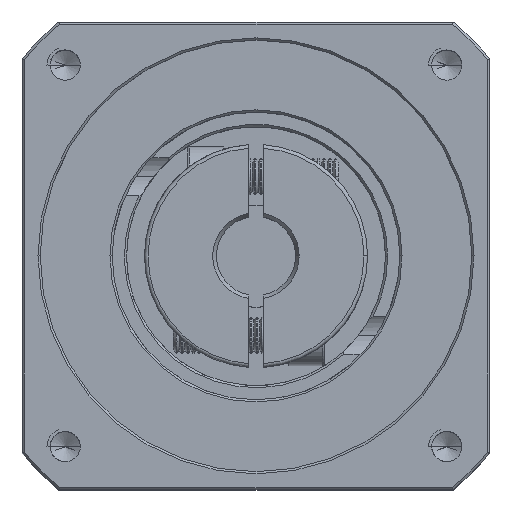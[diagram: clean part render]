
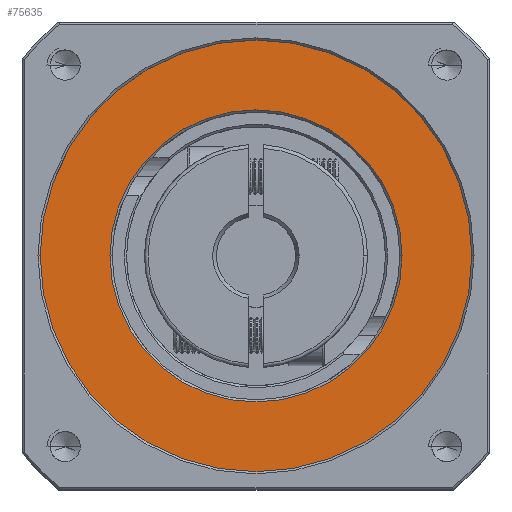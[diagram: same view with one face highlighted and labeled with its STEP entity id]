
A CAD part, top view. The second image highlights one B-rep face of the part: STEP entity #75635.
In plain terms, the highlighted planar face has unit normal (0, 0, 1).
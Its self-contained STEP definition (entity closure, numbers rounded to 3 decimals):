
#27 = DIRECTION ( 'NONE',  ( 0., 0., -1. ) ) ;
#2831 = FACE_BOUND ( 'NONE', #68690, .T. ) ;
#5422 = FACE_OUTER_BOUND ( 'NONE', #14036, .T. ) ;
#6773 = AXIS2_PLACEMENT_3D ( 'NONE', #59103, #9814, #67403 ) ;
#9814 = DIRECTION ( 'NONE',  ( 0., 0., 1. ) ) ;
#10426 = CIRCLE ( 'NONE', #76814, 30. ) ;
#13213 = CARTESIAN_POINT ( 'NONE',  ( -81.135, 18.488, 28.781 ) ) ;
#14036 = EDGE_LOOP ( 'NONE', ( #45661, #30604 ) ) ;
#16954 = CIRCLE ( 'NONE', #6773, 30. ) ;
#19773 = VERTEX_POINT ( 'NONE', #38701 ) ;
#21501 = DIRECTION ( 'NONE',  ( 1., 0., 0. ) ) ;
#23160 = EDGE_CURVE ( 'NONE', #19773, #69518, #16954, .T. ) ;
#30604 = ORIENTED_EDGE ( 'NONE', *, *, #23160, .T. ) ;
#33854 = CIRCLE ( 'NONE', #94463, 20.3 ) ;
#38701 = CARTESIAN_POINT ( 'NONE',  ( -111.135, 18.488, 28.781 ) ) ;
#40495 = CARTESIAN_POINT ( 'NONE',  ( -101.435, 18.488, 28.781 ) ) ;
#41497 = DIRECTION ( 'NONE',  ( 0., 0., 1. ) ) ;
#44186 = CIRCLE ( 'NONE', #52382, 20.3 ) ;
#44668 = CARTESIAN_POINT ( 'NONE',  ( -81.135, 18.488, 28.781 ) ) ;
#45661 = ORIENTED_EDGE ( 'NONE', *, *, #83055, .T. ) ;
#49314 = CARTESIAN_POINT ( 'NONE',  ( -81.135, 18.488, 28.781 ) ) ;
#52382 = AXIS2_PLACEMENT_3D ( 'NONE', #44668, #102139, #52943 ) ;
#52943 = DIRECTION ( 'NONE',  ( 1., 0., 0. ) ) ;
#54371 = VERTEX_POINT ( 'NONE', #40495 ) ;
#54794 = CARTESIAN_POINT ( 'NONE',  ( -60.835, 18.488, 28.781 ) ) ;
#57600 = DIRECTION ( 'NONE',  ( 1., 0., 0. ) ) ;
#57739 = PLANE ( 'NONE',  #102704 ) ;
#59103 = CARTESIAN_POINT ( 'NONE',  ( -81.135, 18.488, 28.781 ) ) ;
#62577 = CARTESIAN_POINT ( 'NONE',  ( -51.135, 18.488, 28.781 ) ) ;
#67403 = DIRECTION ( 'NONE',  ( 1., 0., 0. ) ) ;
#68690 = EDGE_LOOP ( 'NONE', ( #82433, #77388 ) ) ;
#69518 = VERTEX_POINT ( 'NONE', #62577 ) ;
#70797 = DIRECTION ( 'NONE',  ( 0., 0., 1. ) ) ;
#74594 = EDGE_CURVE ( 'NONE', #54371, #76129, #44186, .T. ) ;
#75635 = ADVANCED_FACE ( 'NONE', ( #2831, #5422 ), #57739, .T. ) ;
#76129 = VERTEX_POINT ( 'NONE', #54794 ) ;
#76814 = AXIS2_PLACEMENT_3D ( 'NONE', #13213, #70797, #21501 ) ;
#77388 = ORIENTED_EDGE ( 'NONE', *, *, #74594, .T. ) ;
#82433 = ORIENTED_EDGE ( 'NONE', *, *, #98133, .T. ) ;
#83055 = EDGE_CURVE ( 'NONE', #69518, #19773, #10426, .T. ) ;
#90732 = CARTESIAN_POINT ( 'NONE',  ( -81.135, 18.488, 28.781 ) ) ;
#94463 = AXIS2_PLACEMENT_3D ( 'NONE', #49314, #27, #57600 ) ;
#98133 = EDGE_CURVE ( 'NONE', #76129, #54371, #33854, .T. ) ;
#98990 = DIRECTION ( 'NONE',  ( 1., 0., 0. ) ) ;
#102139 = DIRECTION ( 'NONE',  ( 0., 0., -1. ) ) ;
#102704 = AXIS2_PLACEMENT_3D ( 'NONE', #90732, #41497, #98990 ) ;
